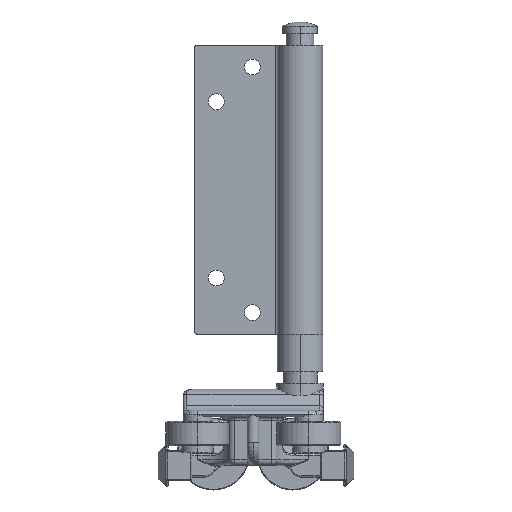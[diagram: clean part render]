
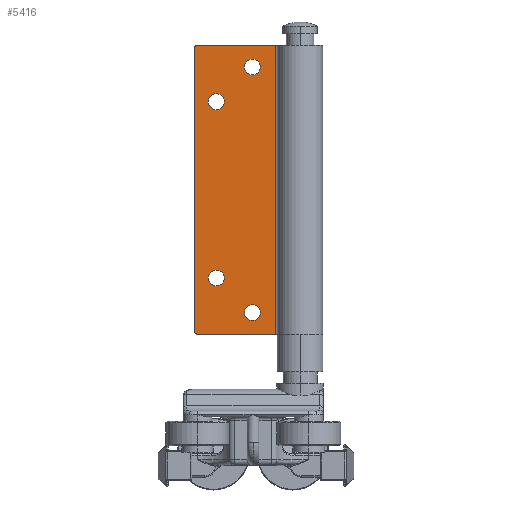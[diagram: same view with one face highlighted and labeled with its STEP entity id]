
A CAD part, top view. The second image highlights one B-rep face of the part: STEP entity #5416.
In plain terms, the highlighted planar face has unit normal (0, 0, 1) as drawn and (1, 0, 0) by its records, which use the part's own axes.
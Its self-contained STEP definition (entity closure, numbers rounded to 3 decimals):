
#29 = ORIENTED_EDGE ( 'NONE', *, *, #4516, .T. ) ;
#165 = EDGE_CURVE ( 'NONE', #2925, #1514, #5581, .T. ) ;
#218 = ORIENTED_EDGE ( 'NONE', *, *, #6004, .T. ) ;
#381 = EDGE_LOOP ( 'NONE', ( #29, #1453 ) ) ;
#564 = CARTESIAN_POINT ( 'NONE',  ( 37.336, 59.109, 35.723 ) ) ;
#585 = CIRCLE ( 'NONE', #7608, 2.75 ) ;
#707 = CARTESIAN_POINT ( 'NONE',  ( 37.336, 60.109, 35.723 ) ) ;
#758 = VERTEX_POINT ( 'NONE', #5397 ) ;
#823 = VERTEX_POINT ( 'NONE', #5809 ) ;
#843 = CARTESIAN_POINT ( 'NONE',  ( 37.336, -39.891, 36.723 ) ) ;
#849 = ORIENTED_EDGE ( 'NONE', *, *, #165, .T. ) ;
#1012 = DIRECTION ( 'NONE',  ( 0., 0., -1. ) ) ;
#1175 = CARTESIAN_POINT ( 'NONE',  ( 37.336, -32.391, 16.723 ) ) ;
#1214 = CARTESIAN_POINT ( 'NONE',  ( 37.336, -20.391, 26.473 ) ) ;
#1325 = ORIENTED_EDGE ( 'NONE', *, *, #6572, .T. ) ;
#1349 = VERTEX_POINT ( 'NONE', #7296 ) ;
#1359 = VERTEX_POINT ( 'NONE', #4056 ) ;
#1379 = EDGE_LOOP ( 'NONE', ( #1325, #2372 ) ) ;
#1447 = CIRCLE ( 'NONE', #7272, 2.75 ) ;
#1453 = ORIENTED_EDGE ( 'NONE', *, *, #7342, .T. ) ;
#1514 = VERTEX_POINT ( 'NONE', #4418 ) ;
#1745 = DIRECTION ( 'NONE',  ( 0., 0., 1. ) ) ;
#1786 = EDGE_LOOP ( 'NONE', ( #9256, #6905 ) ) ;
#1792 = AXIS2_PLACEMENT_3D ( 'NONE', #3914, #2157, #5329 ) ;
#1824 = CARTESIAN_POINT ( 'NONE',  ( 37.336, 52.609, 19.473 ) ) ;
#1871 = CARTESIAN_POINT ( 'NONE',  ( 37.336, 60.109, 36.723 ) ) ;
#1913 = CARTESIAN_POINT ( 'NONE',  ( 37.336, -38.891, 35.723 ) ) ;
#2012 = DIRECTION ( 'NONE',  ( 1., 0., 0. ) ) ;
#2072 = CIRCLE ( 'NONE', #10233, 2.75 ) ;
#2136 = CARTESIAN_POINT ( 'NONE',  ( 37.336, 60.109, 8.573 ) ) ;
#2157 = DIRECTION ( 'NONE',  ( -1., 0., 0. ) ) ;
#2192 = EDGE_CURVE ( 'NONE', #823, #3793, #1447, .T. ) ;
#2239 = CARTESIAN_POINT ( 'NONE',  ( 37.336, -39.891, 35.723 ) ) ;
#2315 = CARTESIAN_POINT ( 'NONE',  ( 37.336, 40.609, 29.223 ) ) ;
#2372 = ORIENTED_EDGE ( 'NONE', *, *, #3257, .T. ) ;
#2719 = CARTESIAN_POINT ( 'NONE',  ( 37.336, 52.609, 16.723 ) ) ;
#2797 = VERTEX_POINT ( 'NONE', #7427 ) ;
#2851 = DIRECTION ( 'NONE',  ( -1., 0., 0. ) ) ;
#2856 = LINE ( 'NONE', #2136, #9210 ) ;
#2925 = VERTEX_POINT ( 'NONE', #5398 ) ;
#3070 = CIRCLE ( 'NONE', #9560, 2.75 ) ;
#3127 = CARTESIAN_POINT ( 'NONE',  ( 37.336, -32.391, 13.973 ) ) ;
#3257 = EDGE_CURVE ( 'NONE', #6149, #2797, #4117, .T. ) ;
#3355 = DIRECTION ( 'NONE',  ( -1., 0., 0. ) ) ;
#3448 = CARTESIAN_POINT ( 'NONE',  ( 37.336, 60.109, 36.723 ) ) ;
#3793 = VERTEX_POINT ( 'NONE', #1824 ) ;
#3839 = DIRECTION ( 'NONE',  ( 0., 1., 0. ) ) ;
#3847 = CARTESIAN_POINT ( 'NONE',  ( 37.336, 60.109, 36.723 ) ) ;
#3914 = CARTESIAN_POINT ( 'NONE',  ( 37.336, 40.609, 29.223 ) ) ;
#3931 = EDGE_LOOP ( 'NONE', ( #849, #5103, #8150, #7575, #6305, #218 ) ) ;
#3935 = EDGE_CURVE ( 'NONE', #8004, #1349, #2856, .T. ) ;
#4003 = DIRECTION ( 'NONE',  ( 0., 0., -1. ) ) ;
#4056 = CARTESIAN_POINT ( 'NONE',  ( 37.336, -32.391, 19.473 ) ) ;
#4117 = CIRCLE ( 'NONE', #1792, 2.75 ) ;
#4365 = FACE_BOUND ( 'NONE', #381, .T. ) ;
#4405 = CIRCLE ( 'NONE', #4902, 2.75 ) ;
#4418 = CARTESIAN_POINT ( 'NONE',  ( 37.336, -38.891, 36.723 ) ) ;
#4438 = EDGE_CURVE ( 'NONE', #5210, #8004, #7978, .T. ) ;
#4470 = DIRECTION ( 'NONE',  ( 0., 0., 1. ) ) ;
#4516 = EDGE_CURVE ( 'NONE', #758, #8252, #585, .T. ) ;
#4571 = CARTESIAN_POINT ( 'NONE',  ( 37.336, 52.609, 16.723 ) ) ;
#4795 = DIRECTION ( 'NONE',  ( 0., -1., 0. ) ) ;
#4902 = AXIS2_PLACEMENT_3D ( 'NONE', #2315, #4913, #1745 ) ;
#4913 = DIRECTION ( 'NONE',  ( -1., 0., 0. ) ) ;
#5007 = CARTESIAN_POINT ( 'NONE',  ( 37.336, -20.391, 29.223 ) ) ;
#5091 = VECTOR ( 'NONE', #1012, 1000. ) ;
#5103 = ORIENTED_EDGE ( 'NONE', *, *, #5829, .T. ) ;
#5129 = DIRECTION ( 'NONE',  ( -1., 0., 0. ) ) ;
#5177 = CARTESIAN_POINT ( 'NONE',  ( 37.336, -32.391, 16.723 ) ) ;
#5184 = VECTOR ( 'NONE', #4795, 1000. ) ;
#5210 = VERTEX_POINT ( 'NONE', #2239 ) ;
#5256 = CIRCLE ( 'NONE', #6596, 2.75 ) ;
#5329 = DIRECTION ( 'NONE',  ( 0., 0., 1. ) ) ;
#5397 = CARTESIAN_POINT ( 'NONE',  ( 37.336, -20.391, 31.973 ) ) ;
#5398 = CARTESIAN_POINT ( 'NONE',  ( 37.336, 59.109, 36.723 ) ) ;
#5416 = ADVANCED_FACE ( 'NONE', ( #4365, #8325, #8224, #9052, #7545 ), #9796, .F. ) ;
#5581 = LINE ( 'NONE', #3847, #5184 ) ;
#5770 = CIRCLE ( 'NONE', #8605, 1. ) ;
#5809 = CARTESIAN_POINT ( 'NONE',  ( 37.336, 52.609, 13.973 ) ) ;
#5829 = EDGE_CURVE ( 'NONE', #1514, #5210, #5770, .T. ) ;
#5832 = DIRECTION ( 'NONE',  ( 0., 0., 1. ) ) ;
#5908 = DIRECTION ( 'NONE',  ( -1., 0., 0. ) ) ;
#5936 = AXIS2_PLACEMENT_3D ( 'NONE', #5007, #8089, #9814 ) ;
#6004 = EDGE_CURVE ( 'NONE', #7212, #2925, #9850, .T. ) ;
#6149 = VERTEX_POINT ( 'NONE', #6388 ) ;
#6183 = EDGE_LOOP ( 'NONE', ( #7661, #8423 ) ) ;
#6288 = DIRECTION ( 'NONE',  ( 1., 0., 0. ) ) ;
#6305 = ORIENTED_EDGE ( 'NONE', *, *, #7278, .F. ) ;
#6388 = CARTESIAN_POINT ( 'NONE',  ( 37.336, 40.609, 26.473 ) ) ;
#6432 = CIRCLE ( 'NONE', #5936, 2.75 ) ;
#6572 = EDGE_CURVE ( 'NONE', #2797, #6149, #4405, .T. ) ;
#6588 = LINE ( 'NONE', #3448, #5091 ) ;
#6596 = AXIS2_PLACEMENT_3D ( 'NONE', #4571, #2851, #4470 ) ;
#6763 = AXIS2_PLACEMENT_3D ( 'NONE', #1871, #9840, #5832 ) ;
#6903 = EDGE_CURVE ( 'NONE', #7832, #1359, #3070, .T. ) ;
#6905 = ORIENTED_EDGE ( 'NONE', *, *, #2192, .T. ) ;
#6961 = EDGE_CURVE ( 'NONE', #1359, #7832, #2072, .T. ) ;
#7062 = VECTOR ( 'NONE', #4003, 1000. ) ;
#7068 = DIRECTION ( 'NONE',  ( 0., 0., 1. ) ) ;
#7186 = CARTESIAN_POINT ( 'NONE',  ( 37.336, -39.891, 8.573 ) ) ;
#7212 = VERTEX_POINT ( 'NONE', #707 ) ;
#7272 = AXIS2_PLACEMENT_3D ( 'NONE', #2719, #5908, #8245 ) ;
#7278 = EDGE_CURVE ( 'NONE', #7212, #1349, #6588, .T. ) ;
#7296 = CARTESIAN_POINT ( 'NONE',  ( 37.336, 60.109, 8.573 ) ) ;
#7342 = EDGE_CURVE ( 'NONE', #8252, #758, #6432, .T. ) ;
#7368 = DIRECTION ( 'NONE',  ( -1., 0., 0. ) ) ;
#7427 = CARTESIAN_POINT ( 'NONE',  ( 37.336, 40.609, 31.973 ) ) ;
#7478 = DIRECTION ( 'NONE',  ( 0., 0., 1. ) ) ;
#7545 = FACE_OUTER_BOUND ( 'NONE', #3931, .T. ) ;
#7570 = CARTESIAN_POINT ( 'NONE',  ( 37.336, -20.391, 29.223 ) ) ;
#7575 = ORIENTED_EDGE ( 'NONE', *, *, #3935, .T. ) ;
#7608 = AXIS2_PLACEMENT_3D ( 'NONE', #7570, #7368, #9820 ) ;
#7661 = ORIENTED_EDGE ( 'NONE', *, *, #6961, .T. ) ;
#7832 = VERTEX_POINT ( 'NONE', #3127 ) ;
#7978 = LINE ( 'NONE', #843, #7062 ) ;
#8004 = VERTEX_POINT ( 'NONE', #7186 ) ;
#8089 = DIRECTION ( 'NONE',  ( -1., 0., 0. ) ) ;
#8150 = ORIENTED_EDGE ( 'NONE', *, *, #4438, .T. ) ;
#8165 = EDGE_CURVE ( 'NONE', #3793, #823, #5256, .T. ) ;
#8224 = FACE_BOUND ( 'NONE', #6183, .T. ) ;
#8245 = DIRECTION ( 'NONE',  ( 0., 0., 1. ) ) ;
#8252 = VERTEX_POINT ( 'NONE', #1214 ) ;
#8325 = FACE_BOUND ( 'NONE', #1786, .T. ) ;
#8423 = ORIENTED_EDGE ( 'NONE', *, *, #6903, .T. ) ;
#8605 = AXIS2_PLACEMENT_3D ( 'NONE', #1913, #2012, #9146 ) ;
#8859 = AXIS2_PLACEMENT_3D ( 'NONE', #564, #6288, #7068 ) ;
#9052 = FACE_BOUND ( 'NONE', #1379, .T. ) ;
#9146 = DIRECTION ( 'NONE',  ( 0., 0., 1. ) ) ;
#9210 = VECTOR ( 'NONE', #3839, 1000. ) ;
#9256 = ORIENTED_EDGE ( 'NONE', *, *, #8165, .T. ) ;
#9560 = AXIS2_PLACEMENT_3D ( 'NONE', #5177, #5129, #7478 ) ;
#9725 = DIRECTION ( 'NONE',  ( 0., 0., 1. ) ) ;
#9796 = PLANE ( 'NONE',  #6763 ) ;
#9814 = DIRECTION ( 'NONE',  ( 0., 0., 1. ) ) ;
#9820 = DIRECTION ( 'NONE',  ( 0., 0., 1. ) ) ;
#9840 = DIRECTION ( 'NONE',  ( -1., 0., 0. ) ) ;
#9850 = CIRCLE ( 'NONE', #8859, 1. ) ;
#10233 = AXIS2_PLACEMENT_3D ( 'NONE', #1175, #3355, #9725 ) ;
